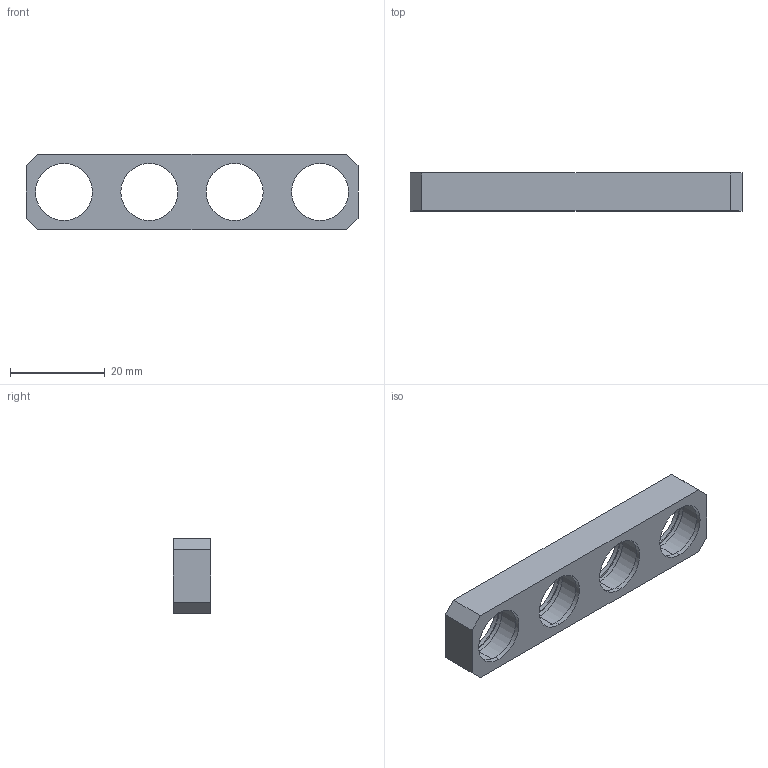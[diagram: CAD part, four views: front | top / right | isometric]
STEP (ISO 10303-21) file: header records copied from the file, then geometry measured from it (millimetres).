
FILE_DESCRIPTION (( 'STEP AP214' ), '1' );
FILE_NAME ('GZ21.23_V1导向从动轮安装板2.STEP', '2021-02-28T04:49:57', ( 'hp' ), ( '' ), 'SwSTEP 2.0', 'SolidWorks 2017', '' );
FILE_SCHEMA (( 'AUTOMOTIVE_DESIGN' ));
Length unit declared in the file: millimetre
Products named in the file (1): GZ21.23_V1导向从动轮安装板2
Bounding box: 70 x 8 x 16 mm (x, y, z)
Volume: 4038 mm3; surface area: 4137.8 mm2
Topology: 1 solids, 1 shells, 54 faces, 120 edges, 80 vertices
Faces by surface type: cylinder 32, plane 22
Entity records: 1578 total; most frequent: DIRECTION 294, CARTESIAN_POINT 255, ORIENTED_EDGE 240, EDGE_CURVE 120, AXIS2_PLACEMENT_3D 119, VERTEX_POINT 80, EDGE_LOOP 74, CIRCLE 64
